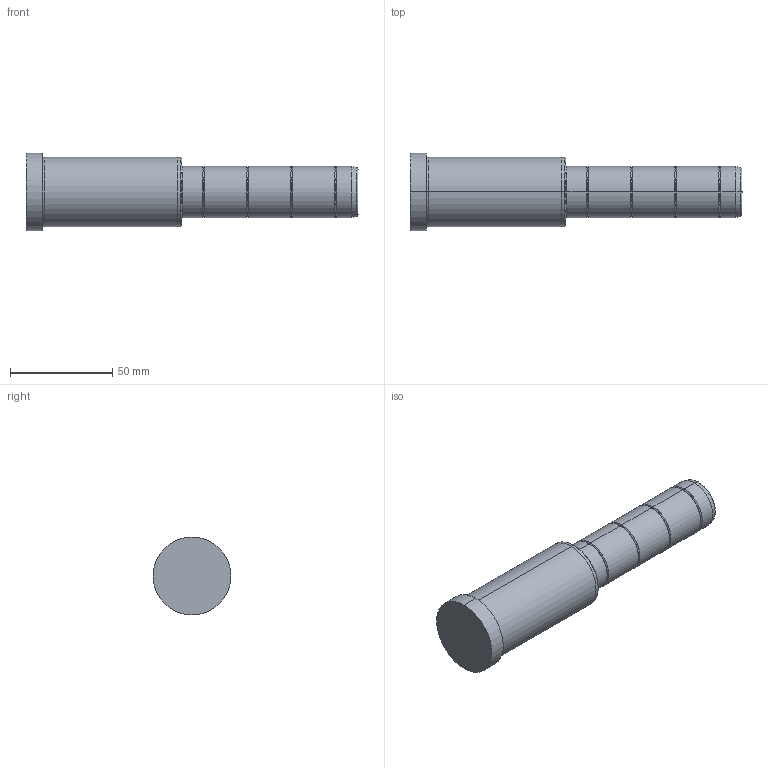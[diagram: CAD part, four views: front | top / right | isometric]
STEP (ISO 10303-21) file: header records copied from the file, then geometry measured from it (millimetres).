
FILE_DESCRIPTION( ( 'STEP AP203' ), '1' );
FILE_NAME( 'C:/Projects/D02 - 25x76x86.step', '2002-12-31T22:21:11', ( ' ' ), ( ' ' ), 'XStep 1.0', ' ', ' ' );
FILE_SCHEMA( ( 'CONFIG_CONTROL_DESIGN' ) );
Length unit declared in the file: metre
Products named in the file (1): 1
Bounding box: 162 x 38 x 38 mm (x, y, z)
Volume: 112865 mm3; surface area: 17288.2 mm2
Topology: 1 solids, 1 shells, 48 faces, 94 edges, 52 vertices
Faces by surface type: bspline 26, revolution 22
Entity records: 1523 total; most frequent: CARTESIAN_POINT 617, ORIENTED_EDGE 188, DIRECTION 150, EDGE_CURVE 94, AXIS2_PLACEMENT_3D 53, EDGE_LOOP 52, VERTEX_POINT 52, CIRCLE 52
